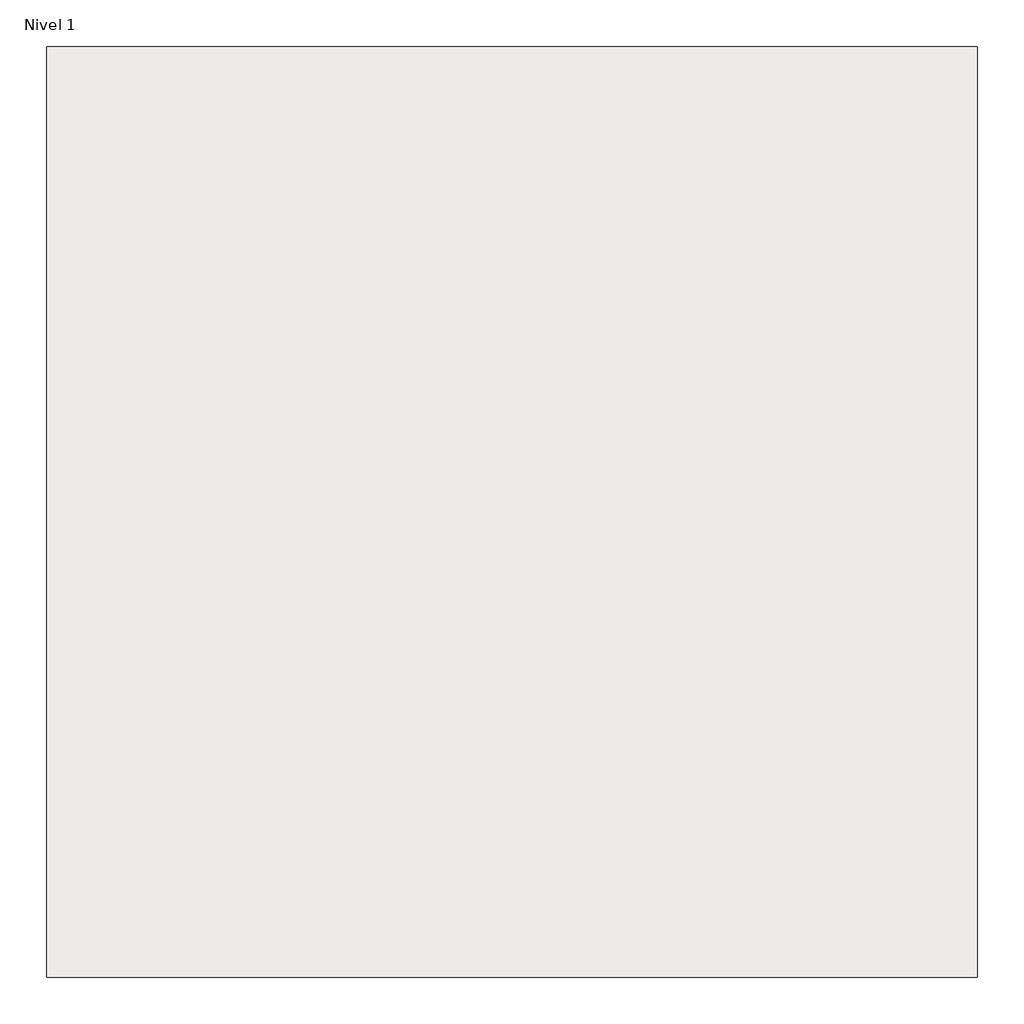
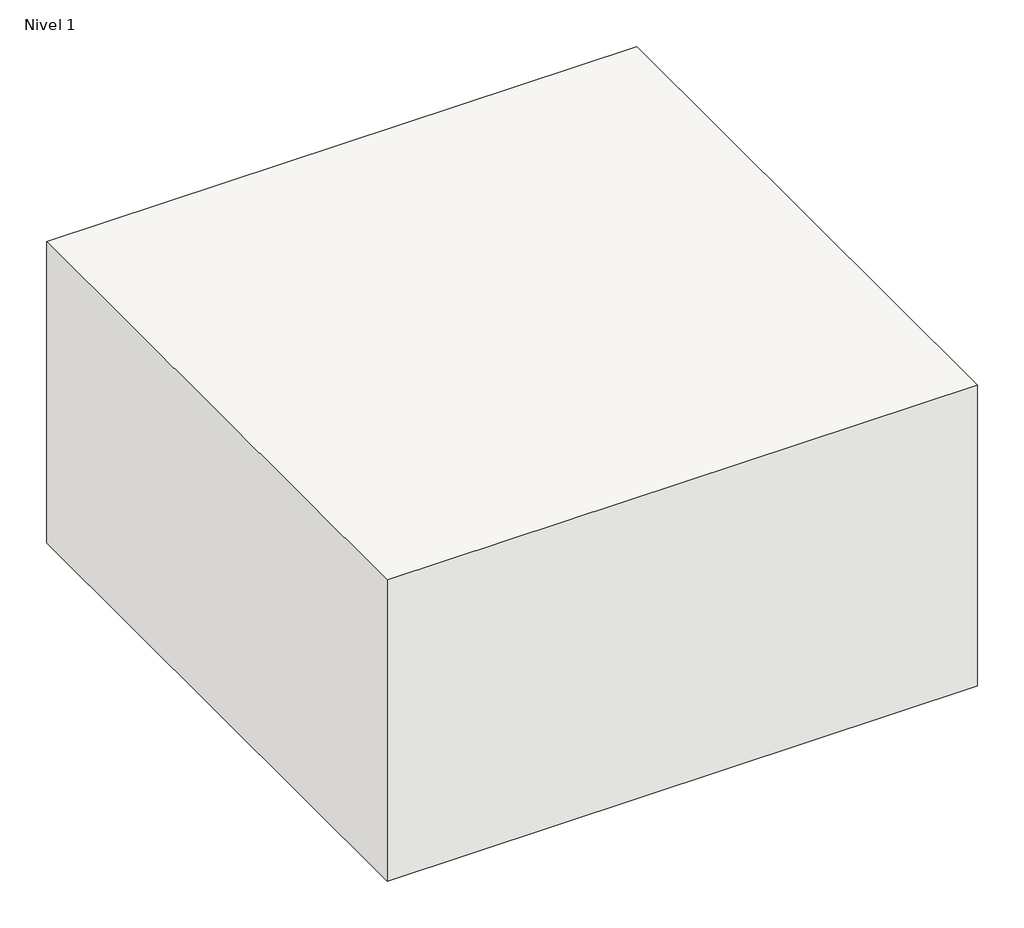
# One storey: 1 roof.
"""IFC4 building model written with IfcOpenShell, lengths in millimetres."""

import ifcopenshell
import ifcopenshell.guid

model = None  # the IFC model being written
_history = None  # IfcOwnerHistory: only IFC2X3 demands one
_inside = {}  # id of a spatial element -> (the spatial element, [elements in it])
_under = {}  # id of a project, library or spatial element -> (it, [spatial elements below it])
_declared = {}  # id of a project -> (the project, [libraries it declares])
_typed = {}  # id of a type object -> (the type object, [elements of that type])
_made_of = {}  # id of a material, layer set ... -> (it, [elements and type objects made of it])


def new_model(schema):
    """Start an empty IFC model of exactly this schema.

    Asked for "IFC4X3", IfcOpenShell would pick the latest addendum, in which some entities
    have other attributes; the version numbers below select the first issue.
    IFC2X3 requires an IfcOwnerHistory on every rooted entity: one is made here for all.
    """
    global model, _history
    if schema == "IFC4X3":
        model = ifcopenshell.file(schema_version=(4, 3, 0, 0))
    else:
        model = ifcopenshell.file(schema=schema)
    _inside.clear()
    _under.clear()
    _declared.clear()
    _typed.clear()
    _made_of.clear()
    _history = None
    if model.schema == "IFC2X3":
        org = make("IfcOrganization", Name="unknown")
        user = make(
            "IfcPersonAndOrganization",
            ThePerson=make("IfcPerson", FamilyName="unknown"),
            TheOrganization=org,
        )
        app = make(
            "IfcApplication",
            ApplicationDeveloper=org,
            Version="unknown",
            ApplicationFullName="unknown",
            ApplicationIdentifier="unknown",
        )
        _history = make(
            "IfcOwnerHistory",
            OwningUser=user,
            OwningApplication=app,
            ChangeAction="ADDED",
            CreationDate=0,
        )
    return model


def make(cls, **values):
    """One entity of the class cls with the attributes given. An attribute that is None is left unset."""
    return model.create_entity(
        cls, **{name: value for name, value in values.items() if value is not None}
    )


def rooted(cls, **values):
    """An entity with a GlobalId (a new one), such as an element, a storey or a relation."""
    return make(cls, GlobalId=ifcopenshell.guid.new(), OwnerHistory=_history, **values)


def si_unit(unit_type, name, prefix=None):
    """IfcSIUnit, for example si_unit("LENGTHUNIT", "METRE", prefix="MILLI")."""
    return make("IfcSIUnit", UnitType=unit_type, Prefix=prefix, Name=name)


def assignment(units):
    """IfcUnitAssignment: the units of a project."""
    return None if units is None else make("IfcUnitAssignment", Units=units)


def point(xyz):
    """IfcCartesianPoint."""
    return None if xyz is None else make("IfcCartesianPoint", Coordinates=xyz)


def direction(xyz):
    """IfcDirection."""
    return None if xyz is None else make("IfcDirection", DirectionRatios=xyz)


def frame(location, z_axis=None, x_axis=None):
    """IfcAxis2Placement3D, a coordinate frame: its origin and axes. An axis left out is left unset."""
    return make(
        "IfcAxis2Placement3D",
        Location=point(location),
        Axis=direction(z_axis),
        RefDirection=direction(x_axis),
    )


def origin():
    """The frame at (0, 0, 0) with its axes left unset."""
    return frame((0.0, 0.0, 0.0))


def origin_with_axes():
    """The frame at (0, 0, 0) with the z axis (0, 0, 1) and the x axis (1, 0, 0) written out."""
    return frame((0.0, 0.0, 0.0), z_axis=(0.0, 0.0, 1.0), x_axis=(1.0, 0.0, 0.0))


def place(relative_to, where):
    """IfcLocalPlacement: puts the frame where relative to a parent placement (None: the world)."""
    return make(
        "IfcLocalPlacement", PlacementRelTo=relative_to, RelativePlacement=where
    )


def context(
    kind, dimensions, precision=None, world=None, true_north=None, identifier=None
):
    """IfcGeometricRepresentationContext, for example the 3D "Model" context."""
    return make(
        "IfcGeometricRepresentationContext",
        ContextIdentifier=identifier,
        ContextType=kind,
        CoordinateSpaceDimension=dimensions,
        Precision=precision,
        WorldCoordinateSystem=world,
        TrueNorth=true_north,
    )


def project(units=None, contexts=None):
    """IfcProject with its units and contexts."""
    return rooted(
        "IfcProject",
        Name="project",
        RepresentationContexts=contexts,
        UnitsInContext=assignment(units),
    )


def spatial(cls, under=None, at=None, **own):
    """A site, building, storey or space (cls), placed at a placement, below another one or the project."""
    s = rooted(cls, ObjectPlacement=at, **own)
    if under is not None:
        _under.setdefault(under.id(), (under, []))[1].append(s)
    return s


def polyline(points):
    """IfcPolyline through the points."""
    return make("IfcPolyline", Points=[point(p) for p in points])


def outline(outer, holes=None, kind="AREA"):
    """IfcArbitraryClosedProfileDef: a profile drawn as a closed curve; with holes, ...WithVoids."""
    if holes is None:
        return make("IfcArbitraryClosedProfileDef", ProfileType=kind, OuterCurve=outer)
    return make(
        "IfcArbitraryProfileDefWithVoids",
        ProfileType=kind,
        OuterCurve=outer,
        InnerCurves=holes,
    )


def extrude(swept, where, along, depth):
    """IfcExtrudedAreaSolid: the profile swept, set in the frame where, extruded along a direction by depth."""
    return make(
        "IfcExtrudedAreaSolid",
        SweptArea=swept,
        Position=where,
        ExtrudedDirection=direction(along),
        Depth=depth,
    )


def shape(context_of_items, identifier, shape_type, items):
    """IfcShapeRepresentation: the items that make up one representation, for example the "Body"."""
    return make(
        "IfcShapeRepresentation",
        ContextOfItems=context_of_items,
        RepresentationIdentifier=identifier,
        RepresentationType=shape_type,
        Items=items,
    )


def made_of(thing, what):
    """Note that an element or type object is made of a material, layer set ...; save() writes the relation."""
    if what is not None:
        _made_of.setdefault(what.id(), (what, []))[1].append(thing)
    return thing


def element(
    cls,
    number,
    at=None,
    inside=None,
    cuts=None,
    type_object=None,
    material=None,
    context=None,
    identifier="Body",
    shape_type=None,
    held_by="IfcProductDefinitionShape",
    body=None,
    shapes=None,
    **own,
):
    """One element of the class cls, such as IfcWall. Its Tag is "e" and its number.

    at: its placement. inside: the storey or other place that contains it. cuts: it is an
    opening in that element (IfcRelVoidsElement). A single representation is given by context,
    identifier, shape_type and body (its items); several are given by shapes. held_by: the class
    of the entity that holds the representations. save() writes the other relations.
    """
    e = rooted(cls, Tag="e%d" % number, ObjectPlacement=at, **own)
    if body is not None:
        shapes = [shape(context, identifier, shape_type, body)]
    if shapes is not None:
        e.Representation = make(held_by, Representations=shapes)
    if inside is not None:
        _inside.setdefault(inside.id(), (inside, []))[1].append(e)
    if cuts is not None:
        rooted(
            "IfcRelVoidsElement", RelatingBuildingElement=cuts, RelatedOpeningElement=e
        )
    if type_object is not None:
        _typed.setdefault(type_object.id(), (type_object, []))[1].append(e)
    return made_of(e, material)


def aggregate(whole, parts):
    """IfcRelAggregates: a whole, such as a stair, and the parts it consists of."""
    return rooted("IfcRelAggregates", RelatingObject=whole, RelatedObjects=parts)


def save(model, path):
    """Write the relations noted so far, then the file.

    IfcRelAggregates (storeys below a building ...), IfcRelContainedInSpatialStructure (elements
    in a storey), IfcRelDefinesByType, IfcRelAssociatesMaterial and IfcRelDeclares: one each for
    every whole, place, type object, material and project.
    """
    for whole, parts in _under.values():
        aggregate(whole, parts)
    for where, things in _inside.values():
        rooted(
            "IfcRelContainedInSpatialStructure",
            RelatedElements=things,
            RelatingStructure=where,
        )
    for kind, things in _typed.values():
        rooted("IfcRelDefinesByType", RelatedObjects=things, RelatingType=kind)
    for what, things in _made_of.values():
        rooted("IfcRelAssociatesMaterial", RelatedObjects=things, RelatingMaterial=what)
    for by, libraries in _declared.values():
        rooted("IfcRelDeclares", RelatingContext=by, RelatedDefinitions=libraries)
    model.write(path)


model = new_model("IFC4")

# Units and contexts
model_context = context("Model", 3, world=origin())
ifc_project = project(units=[si_unit("LENGTHUNIT", "METRE", prefix="MILLI")], contexts=[model_context])

# Site, building, storey
site = spatial("IfcSite", under=ifc_project)
building = spatial("IfcBuilding", under=site)
storey = spatial("IfcBuildingStorey", under=building, Name="Nivel 1", Elevation=0.0)

# Roof
placement = place(None, origin())
element("IfcRoof", 1, ObjectType="Cubierta plana no transitable no ventilada con grava_plancha poliuretano", at=placement, inside=storey, context=model_context, shape_type="SweptSolid", body=[
    extrude(outline(polyline([(-3013.2553136, 4631.8256744), (-3013.2553136, 3631.8256744), (-4013.2553136, 3631.8256744), (-4013.2553136, 4631.8256744), (-3013.2553136, 4631.8256744)])), origin_with_axes(), (0.0, 0.0, 1.0), 540.0),
])

save(model, "model.ifc")
